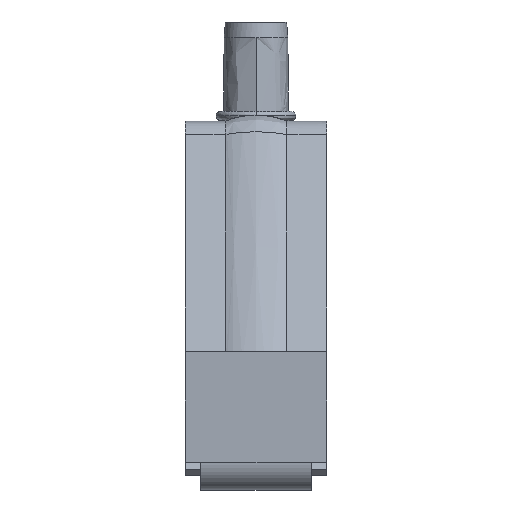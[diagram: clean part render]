
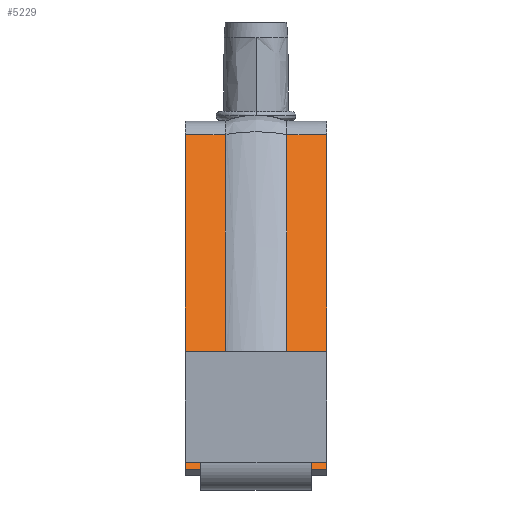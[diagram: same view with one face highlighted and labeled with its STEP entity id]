
A CAD part, left-side view. The second image highlights one B-rep face of the part: STEP entity #5229.
In plain terms, the highlighted planar face has unit normal (-0.889, 0, 0.458).
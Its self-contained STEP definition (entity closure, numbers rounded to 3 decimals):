
#3345=PLANE('',#21377);
#5229=ADVANCED_FACE('',(#6498),#3345,.T.);
#6498=FACE_OUTER_BOUND('',#7770,.T.);
#7770=EDGE_LOOP('',(#14312,#14313,#14314,#14315,#14316,#14317,#14318,#14319,
#14320,#14321));
#14312=ORIENTED_EDGE('',*,*,#17831,.T.);
#14313=ORIENTED_EDGE('',*,*,#17702,.F.);
#14314=ORIENTED_EDGE('',*,*,#17782,.F.);
#14315=ORIENTED_EDGE('',*,*,#17784,.T.);
#14316=ORIENTED_EDGE('',*,*,#17735,.F.);
#14317=ORIENTED_EDGE('',*,*,#17822,.T.);
#14318=ORIENTED_EDGE('',*,*,#17821,.T.);
#14319=ORIENTED_EDGE('',*,*,#17785,.F.);
#14320=ORIENTED_EDGE('',*,*,#17811,.F.);
#14321=ORIENTED_EDGE('',*,*,#17698,.F.);
#17698=EDGE_CURVE('',#20445,#20446,#18346,.T.);
#17702=EDGE_CURVE('',#20447,#20444,#18350,.T.);
#17735=EDGE_CURVE('',#20471,#20474,#18366,.T.);
#17782=EDGE_CURVE('',#20504,#20447,#18401,.T.);
#17784=EDGE_CURVE('',#20504,#20474,#18403,.T.);
#17785=EDGE_CURVE('',#20505,#20466,#18404,.T.);
#17811=EDGE_CURVE('',#20446,#20505,#18430,.T.);
#17821=EDGE_CURVE('',#20463,#20466,#18440,.T.);
#17822=EDGE_CURVE('',#20471,#20463,#18441,.T.);
#17831=EDGE_CURVE('',#20445,#20444,#18450,.T.);
#18346=(
BOUNDED_CURVE()
B_SPLINE_CURVE(2,(#45635,#45636,#45637),.UNSPECIFIED.,.F.,.F.)
B_SPLINE_CURVE_WITH_KNOTS((3,3),(-91.925,-82.904),
 .UNSPECIFIED.)
CURVE()
GEOMETRIC_REPRESENTATION_ITEM()
RATIONAL_B_SPLINE_CURVE((1.,1.,1.))
REPRESENTATION_ITEM('')
);
#18350=(
BOUNDED_CURVE()
B_SPLINE_CURVE(2,(#45651,#45652,#45653),.UNSPECIFIED.,.F.,.F.)
B_SPLINE_CURVE_WITH_KNOTS((3,3),(82.904,91.925),
 .UNSPECIFIED.)
CURVE()
GEOMETRIC_REPRESENTATION_ITEM()
RATIONAL_B_SPLINE_CURVE((1.,1.,1.))
REPRESENTATION_ITEM('')
);
#18366=(
BOUNDED_CURVE()
B_SPLINE_CURVE(1,(#45845,#45846),.UNSPECIFIED.,.F.,.F.)
B_SPLINE_CURVE_WITH_KNOTS((2,2),(20.5,23.),.UNSPECIFIED.)
CURVE()
GEOMETRIC_REPRESENTATION_ITEM()
RATIONAL_B_SPLINE_CURVE((1.,1.))
REPRESENTATION_ITEM('')
);
#18401=(
BOUNDED_CURVE()
B_SPLINE_CURVE(1,(#45967,#45968),.UNSPECIFIED.,.F.,.F.)
B_SPLINE_CURVE_WITH_KNOTS((2,2),(0.,6.5),.UNSPECIFIED.)
CURVE()
GEOMETRIC_REPRESENTATION_ITEM()
RATIONAL_B_SPLINE_CURVE((1.,1.))
REPRESENTATION_ITEM('')
);
#18403=(
BOUNDED_CURVE()
B_SPLINE_CURVE(2,(#45972,#45973,#45974),.UNSPECIFIED.,.F.,.F.)
B_SPLINE_CURVE_WITH_KNOTS((3,3),(20.53,81.815),
 .UNSPECIFIED.)
CURVE()
GEOMETRIC_REPRESENTATION_ITEM()
RATIONAL_B_SPLINE_CURVE((1.,1.,1.))
REPRESENTATION_ITEM('')
);
#18404=(
BOUNDED_CURVE()
B_SPLINE_CURVE(2,(#45975,#45976,#45977),.UNSPECIFIED.,.F.,.F.)
B_SPLINE_CURVE_WITH_KNOTS((3,3),(20.53,81.815),
 .UNSPECIFIED.)
CURVE()
GEOMETRIC_REPRESENTATION_ITEM()
RATIONAL_B_SPLINE_CURVE((1.,1.,1.))
REPRESENTATION_ITEM('')
);
#18430=(
BOUNDED_CURVE()
B_SPLINE_CURVE(1,(#46044,#46045),.UNSPECIFIED.,.F.,.F.)
B_SPLINE_CURVE_WITH_KNOTS((2,2),(16.5,23.),.UNSPECIFIED.)
CURVE()
GEOMETRIC_REPRESENTATION_ITEM()
RATIONAL_B_SPLINE_CURVE((1.,1.))
REPRESENTATION_ITEM('')
);
#18440=(
BOUNDED_CURVE()
B_SPLINE_CURVE(1,(#46071,#46072),.UNSPECIFIED.,.F.,.F.)
B_SPLINE_CURVE_WITH_KNOTS((2,2),(20.5,23.),.UNSPECIFIED.)
CURVE()
GEOMETRIC_REPRESENTATION_ITEM()
RATIONAL_B_SPLINE_CURVE((1.,1.))
REPRESENTATION_ITEM('')
);
#18441=(
BOUNDED_CURVE()
B_SPLINE_CURVE(1,(#46073,#46074),.UNSPECIFIED.,.F.,.F.)
B_SPLINE_CURVE_WITH_KNOTS((2,2),(2.5,20.5),.UNSPECIFIED.)
CURVE()
GEOMETRIC_REPRESENTATION_ITEM()
RATIONAL_B_SPLINE_CURVE((1.,1.))
REPRESENTATION_ITEM('')
);
#18450=(
BOUNDED_CURVE()
B_SPLINE_CURVE(2,(#46094,#46095,#46096,#46097,#46098),.UNSPECIFIED.,.F.,
 .F.)
B_SPLINE_CURVE_WITH_KNOTS((3,2,3),(0.,7.854,15.708),
 .UNSPECIFIED.)
CURVE()
GEOMETRIC_REPRESENTATION_ITEM()
RATIONAL_B_SPLINE_CURVE((1.,0.707,1.,0.707,1.))
REPRESENTATION_ITEM('')
);
#20444=VERTEX_POINT('',#45321);
#20445=VERTEX_POINT('',#45322);
#20446=VERTEX_POINT('',#45323);
#20447=VERTEX_POINT('',#45324);
#20463=VERTEX_POINT('',#45340);
#20466=VERTEX_POINT('',#45343);
#20471=VERTEX_POINT('',#45348);
#20474=VERTEX_POINT('',#45351);
#20504=VERTEX_POINT('',#45381);
#20505=VERTEX_POINT('',#45382);
#21377=AXIS2_PLACEMENT_3D('',#45076,#22124,$);
#22124=DIRECTION('',(-0.889,0.,0.458));
#45076=CARTESIAN_POINT('',(-19.705,11.5,-0.168));
#45321=CARTESIAN_POINT('',(-38.988,5.,-37.589));
#45322=CARTESIAN_POINT('',(-38.988,-5.,-37.589));
#45323=CARTESIAN_POINT('',(-19.705,-5.,-0.168));
#45324=CARTESIAN_POINT('',(-19.705,5.,-0.168));
#45340=CARTESIAN_POINT('',(-47.778,-9.,-54.645));
#45343=CARTESIAN_POINT('',(-47.778,-11.5,-54.645));
#45348=CARTESIAN_POINT('',(-47.778,9.,-54.645));
#45351=CARTESIAN_POINT('',(-47.778,11.5,-54.645));
#45381=CARTESIAN_POINT('',(-19.705,11.5,-0.168));
#45382=CARTESIAN_POINT('',(-19.705,-11.5,-0.168));
#45635=CARTESIAN_POINT('',(-38.988,-5.,-37.589));
#45636=CARTESIAN_POINT('',(-29.347,-5.,-18.878));
#45637=CARTESIAN_POINT('',(-19.705,-5.,-0.168));
#45651=CARTESIAN_POINT('',(-19.705,5.,-0.168));
#45652=CARTESIAN_POINT('',(-29.347,5.,-18.878));
#45653=CARTESIAN_POINT('',(-38.988,5.,-37.589));
#45845=CARTESIAN_POINT('',(-47.778,9.,-54.645));
#45846=CARTESIAN_POINT('',(-47.778,11.5,-54.645));
#45967=CARTESIAN_POINT('',(-19.705,11.5,-0.168));
#45968=CARTESIAN_POINT('',(-19.705,5.,-0.168));
#45972=CARTESIAN_POINT('',(-19.705,11.5,-0.168));
#45973=CARTESIAN_POINT('',(-33.742,11.5,-27.406));
#45974=CARTESIAN_POINT('',(-47.778,11.5,-54.645));
#45975=CARTESIAN_POINT('',(-19.705,-11.5,-0.168));
#45976=CARTESIAN_POINT('',(-33.742,-11.5,-27.406));
#45977=CARTESIAN_POINT('',(-47.778,-11.5,-54.645));
#46044=CARTESIAN_POINT('',(-19.705,-5.,-0.168));
#46045=CARTESIAN_POINT('',(-19.705,-11.5,-0.168));
#46071=CARTESIAN_POINT('',(-47.778,-9.,-54.645));
#46072=CARTESIAN_POINT('',(-47.778,-11.5,-54.645));
#46073=CARTESIAN_POINT('',(-47.778,9.,-54.645));
#46074=CARTESIAN_POINT('',(-47.778,-9.,-54.645));
#46094=CARTESIAN_POINT('',(-38.988,-5.,-37.589));
#46095=CARTESIAN_POINT('',(-41.279,-5.,-42.033));
#46096=CARTESIAN_POINT('',(-41.279,0.,-42.033));
#46097=CARTESIAN_POINT('',(-41.279,5.,-42.033));
#46098=CARTESIAN_POINT('',(-38.988,5.,-37.589));
